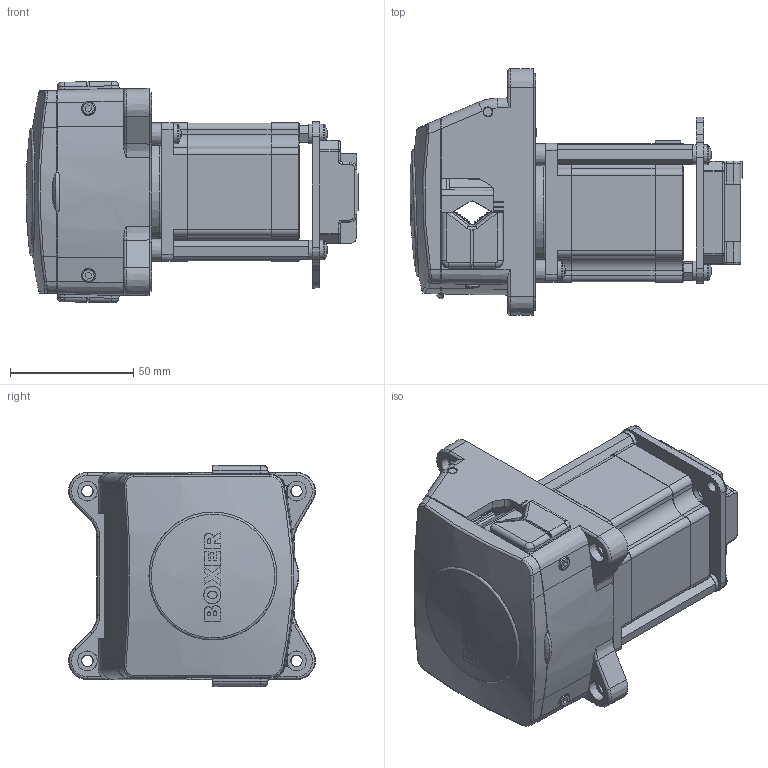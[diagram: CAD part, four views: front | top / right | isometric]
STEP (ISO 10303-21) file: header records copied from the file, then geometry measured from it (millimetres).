
FILE_DESCRIPTION (( 'STEP AP214' ), '1' );
FILE_NAME ('30057(8).000_30KS_short_A4_external.STEP', '2022-02-14T16:42:00', ( '' ), ( '' ), 'SwSTEP 2.0', 'SolidWorks 2021', '' );
FILE_SCHEMA (( 'AUTOMOTIVE_DESIGN' ));
Length unit declared in the file: millimetre
Products named in the file (1): 30057(8).000_30KS_short_A4_external
Bounding box: 134.94 x 100.29 x 89.97 mm (x, y, z)
Volume: 328951.9 mm3; surface area: 122568.2 mm2
Topology: 21 solids, 21 shells, 2390 faces, 5991 edges, 3698 vertices
Faces by surface type: plane 950, cylinder 640, bspline 357, cone 176, torus 141, sphere 126
Full cylindrical faces by diameter (mm): 2.5 x2, 2.6 x4, 3 x2, 3.2 x2, 3.4 x4, 3.5 x8, 4 x14, 4.05 x2, 4.5 x3, 4.517 x4, 5 x5, 5.45 x2, 6.5 x4, 8 x8, 16.5 x1, 18 x1, 22 x1, 38 x1, 52 x1
Entity records: 91913 total; most frequent: CARTESIAN_POINT 31427, ORIENTED_EDGE 11568, DIRECTION 10332, EDGE_CURVE 5784, AXIS2_PLACEMENT_3D 3775, VERTEX_POINT 3648, LINE 2782, VECTOR 2782
